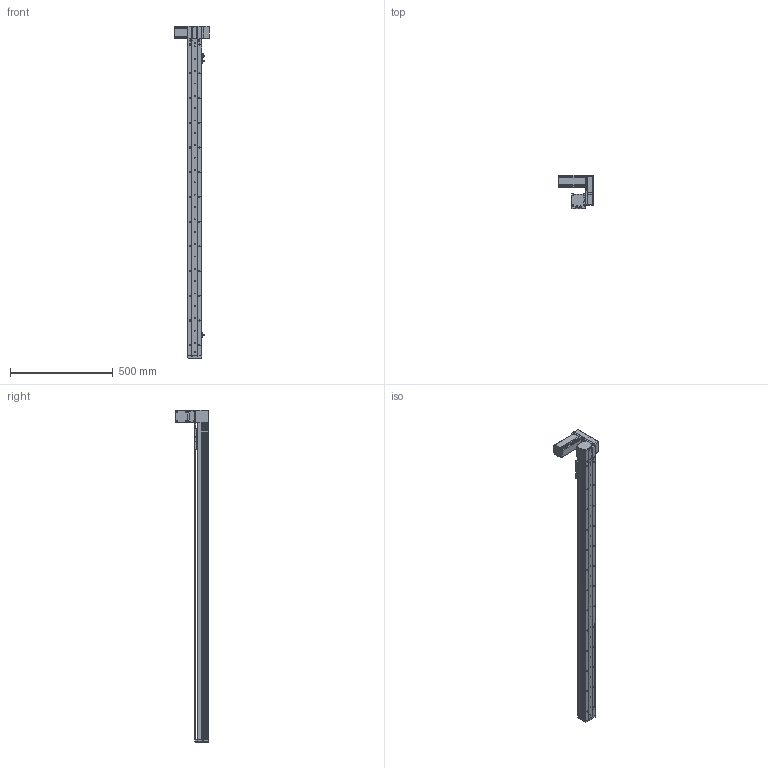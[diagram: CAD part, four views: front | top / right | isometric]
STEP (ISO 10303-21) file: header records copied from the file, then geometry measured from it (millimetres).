
FILE_DESCRIPTION (( 'STEP AP214' ), '1' );
FILE_NAME ('KSD68BS-S1350-MLU-CM.STEP', '2019-11-06T07:00:25', ( '微软用户' ), ( '微软中国' ), 'SwSTEP 2.0', 'SolidWorks 2014', '' );
FILE_SCHEMA (( 'AUTOMOTIVE_DESIGN' ));
Length unit declared in the file: millimetre
Products named in the file (11): U倰嫖萇EEㄜSX672; 台达ECMA－C20604AS伺服电机（400W); KSD68BS 1350俴最菁啣圉猾敕; KSD68BS-S1350-MLU-CM; 悵誘欶奻狟殏; 68宽马达安装板连板上折同步带; 68宽单导轨半封闭同步带主动轮座左; 68单导轨同步带半封闭端板; KSD68BS 1350俴最裔啣圉猾敕; 覜茼え68遵圉猾敕; KSD68BS半封闭同步带传动导轨座
Assembly tree (12 placements, depth 2):
  KSD68BS-S1350-MLU-CM
    KSD68BS 1350俴最菁啣圉猾敕
    台达ECMA－C20604AS伺服电机（400W)
    U倰嫖萇EEㄜSX672  x3
    KSD68BS半封闭同步带传动导轨座
    覜茼え68遵圉猾敕
    KSD68BS 1350俴最裔啣圉猾敕
    68单导轨同步带半封闭端板
    68宽单导轨半封闭同步带主动轮座左
    68宽马达安装板连板上折同步带
    悵誘欶奻狟殏
Bounding box: 167.2 x 159.5 x 1612 mm (x, y, z)
Volume: 2812546.1 mm3; surface area: 1025496.9 mm2
Topology: 13 solids, 13 shells, 1508 faces, 4386 edges, 2856 vertices
Faces by surface type: cylinder 780, plane 645, cone 83
Entity records: 57614 total; most frequent: CARTESIAN_POINT 11382, ORIENTED_EDGE 7524, DIRECTION 7334, EDGE_CURVE 3762, AXIS2_PLACEMENT_3D 2640, VERTEX_POINT 2480, VECTOR 2054, LINE 2054
